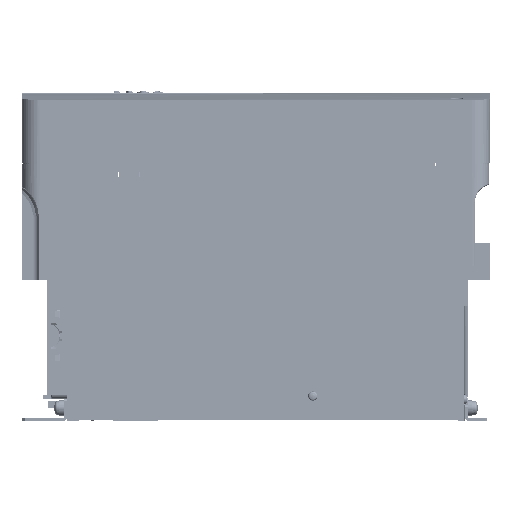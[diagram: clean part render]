
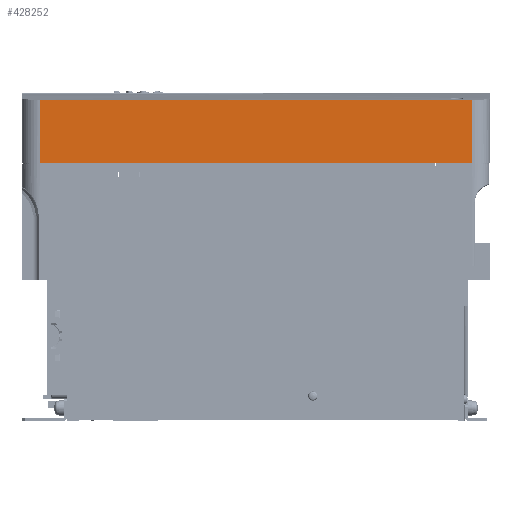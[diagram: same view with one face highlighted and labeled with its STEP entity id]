
A CAD part, left-side view. The second image highlights one B-rep face of the part: STEP entity #428252.
In plain terms, the highlighted planar face has unit normal (-1, 0, 0).
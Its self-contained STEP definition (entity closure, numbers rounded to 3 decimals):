
#419060=DIRECTION('',(0.,0.,-1.));
#419061=VECTOR('',#419060,47.277);
#419062=CARTESIAN_POINT('',(-110.,136.5,-5.523));
#419063=LINE('',#419062,#419061);
#419064=DIRECTION('',(0.,1.,0.));
#419065=VECTOR('',#419064,323.);
#419066=CARTESIAN_POINT('',(-110.,-186.5,-5.523));
#419067=LINE('',#419066,#419065);
#419068=DIRECTION('',(0.,0.,-1.));
#419069=VECTOR('',#419068,47.277);
#419070=CARTESIAN_POINT('',(-110.,-186.5,-5.523));
#419071=LINE('',#419070,#419069);
#419072=DIRECTION('',(0.,-1.,0.));
#419073=VECTOR('',#419072,323.);
#419074=CARTESIAN_POINT('',(-110.,136.5,-52.8));
#419075=LINE('',#419074,#419073);
#424450=CARTESIAN_POINT('',(-110.,136.5,-52.8));
#424452=VERTEX_POINT('',#424450);
#424456=CARTESIAN_POINT('',(-110.,136.5,-5.523));
#424457=VERTEX_POINT('',#424456);
#424462=CARTESIAN_POINT('',(-110.,-186.5,-52.8));
#424463=VERTEX_POINT('',#424462);
#424464=CARTESIAN_POINT('',(-110.,-186.5,-5.523));
#424465=VERTEX_POINT('',#424464);
#428240=CARTESIAN_POINT('',(-110.,150.,0.));
#428241=DIRECTION('',(-1.,0.,0.));
#428242=DIRECTION('',(0.,-1.,0.));
#428243=AXIS2_PLACEMENT_3D('',#428240,#428241,#428242);
#428244=PLANE('',#428243);
#428246=ORIENTED_EDGE('',*,*,#428245,.F.);
#428247=ORIENTED_EDGE('',*,*,#426874,.F.);
#428248=ORIENTED_EDGE('',*,*,#428225,.T.);
#428249=ORIENTED_EDGE('',*,*,#426801,.F.);
#428250=EDGE_LOOP('',(#428246,#428247,#428248,#428249));
#428251=FACE_OUTER_BOUND('',#428250,.F.);
#426801=EDGE_CURVE('',#424452,#424463,#419075,.T.);
#426874=EDGE_CURVE('',#424465,#424457,#419067,.T.);
#428225=EDGE_CURVE('',#424465,#424463,#419071,.T.);
#428245=EDGE_CURVE('',#424457,#424452,#419063,.T.);
#428252=ADVANCED_FACE('',(#428251),#428244,.T.);
